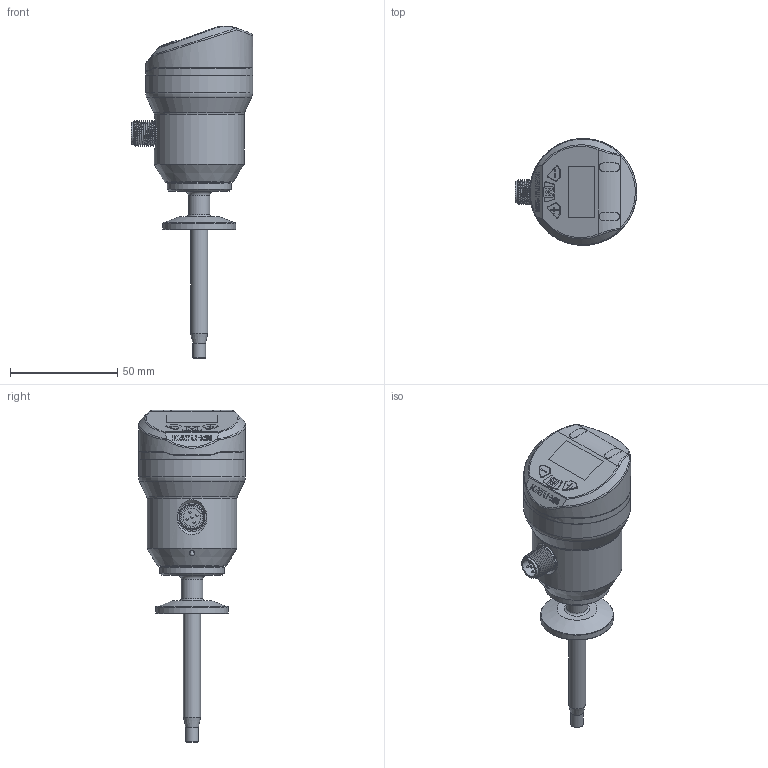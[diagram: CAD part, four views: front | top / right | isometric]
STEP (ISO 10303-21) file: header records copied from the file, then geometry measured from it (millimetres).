
FILE_DESCRIPTION( (''), '2;1');
FILE_NAME( 'QEKE_H34_L60_tri-clamp.step', '2026-06-25T11:47:03+08:00', (''), (''), '', '', '');
FILE_SCHEMA (('AP203_CONFIGURATION_CONTROLLED_3D_DESIGN_OF_MECHANICAL_PARTS_AND_ASSEMBLIES_MIM_LF { 1 0 10303 403 2 1 2}'));
Length unit declared in the file: millimetre
Products named in the file (1): QEKE H34_L60_tri-clamp
Bounding box: 56.7 x 50 x 155.09 mm (x, y, z)
Volume: 94176.9 mm3; surface area: 35170.5 mm2
Topology: 9 solids, 9 shells, 560 faces, 1402 edges, 905 vertices
Faces by surface type: plane 303, cylinder 130, bspline 43, cone 38, torus 35, sphere 11
Full cylindrical faces by diameter (mm): 1 x10, 2.5 x1, 2.7 x5, 3.1 x1, 3.5 x2, 6 x1, 6.8 x1, 8 x1, 8.4 x1, 9.7 x1, 9.8 x1, 10 x1, 10.1 x1, 11 x1, 11.6 x1, 12 x1, 23 x3, 26.1 x5, 30 x1, 34 x1, 42 x1, 48 x1, 50 x3
Entity records: 20119 total; most frequent: CARTESIAN_POINT 6610, DIRECTION 2540, ORIENTED_EDGE 2528, EDGE_CURVE 1264, AXIS2_PLACEMENT_3D 906, VERTEX_POINT 858, LINE 728, VECTOR 728
